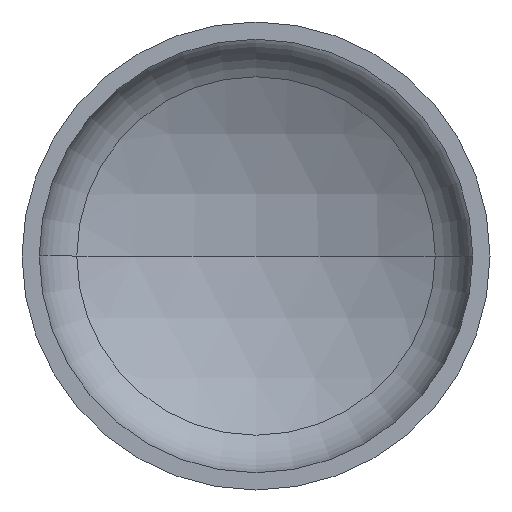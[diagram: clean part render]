
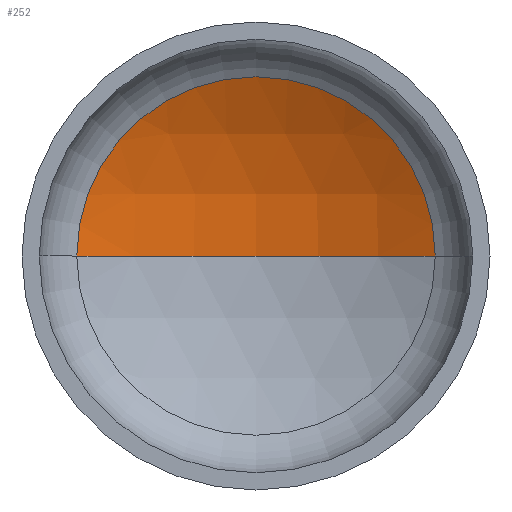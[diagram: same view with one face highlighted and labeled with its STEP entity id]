
A CAD part, front view. The second image highlights one B-rep face of the part: STEP entity #252.
In plain terms, the highlighted spherical face has radius 1040 mm.
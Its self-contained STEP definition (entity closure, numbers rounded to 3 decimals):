
#13 = AXIS2_PLACEMENT_3D ( 'NONE', #42, #39, #63 ) ;
#18 = AXIS2_PLACEMENT_3D ( 'NONE', #316, #138, #345 ) ;
#19 = AXIS2_PLACEMENT_3D ( 'NONE', #180, #182, #162 ) ;
#20 = AXIS2_PLACEMENT_3D ( 'NONE', #286, #203, #198 ) ;
#39 = DIRECTION ( 'NONE',  ( 0., 0., -1. ) ) ;
#42 = CARTESIAN_POINT ( 'NONE',  ( 0., -587.561, 0. ) ) ;
#47 = EDGE_LOOP ( 'NONE', ( #243, #228, #145 ) ) ;
#56 = EDGE_CURVE ( 'NONE', #108, #186, #60, .T. ) ;
#57 = EDGE_CURVE ( 'NONE', #82, #108, #371, .T. ) ;
#58 = EDGE_CURVE ( 'NONE', #82, #186, #247, .T. ) ;
#60 = CIRCLE ( 'NONE', #20, 497.714 ) ;
#63 = DIRECTION ( 'NONE',  ( -1., 0., 0. ) ) ;
#82 = VERTEX_POINT ( 'NONE', #340 ) ;
#108 = VERTEX_POINT ( 'NONE', #271 ) ;
#138 = DIRECTION ( 'NONE',  ( 0., 0., 1. ) ) ;
#145 = ORIENTED_EDGE ( 'NONE', *, *, #56, .T. ) ;
#162 = DIRECTION ( 'NONE',  ( -1., 0., 0. ) ) ;
#180 = CARTESIAN_POINT ( 'NONE',  ( 0., -587.561, 0. ) ) ;
#182 = DIRECTION ( 'NONE',  ( 0., 0., -1. ) ) ;
#186 = VERTEX_POINT ( 'NONE', #278 ) ;
#198 = DIRECTION ( 'NONE',  ( 1., 0., 0. ) ) ;
#203 = DIRECTION ( 'NONE',  ( 0., -1., 0. ) ) ;
#228 = ORIENTED_EDGE ( 'NONE', *, *, #57, .T. ) ;
#243 = ORIENTED_EDGE ( 'NONE', *, *, #58, .F. ) ;
#247 = CIRCLE ( 'NONE', #18, 1040. ) ;
#252 = ADVANCED_FACE ( 'NONE', ( #408 ), #282, .F. ) ;
#271 = CARTESIAN_POINT ( 'NONE',  ( 497.714, 325.61, 0. ) ) ;
#278 = CARTESIAN_POINT ( 'NONE',  ( -497.714, 325.61, 0. ) ) ;
#282 = SPHERICAL_SURFACE ( 'NONE', #13, 1040. ) ;
#286 = CARTESIAN_POINT ( 'NONE',  ( 0., 325.61, 0. ) ) ;
#316 = CARTESIAN_POINT ( 'NONE',  ( 0., -587.561, 0. ) ) ;
#340 = CARTESIAN_POINT ( 'NONE',  ( 0., 452.439, 0. ) ) ;
#345 = DIRECTION ( 'NONE',  ( 1., 0., 0. ) ) ;
#371 = CIRCLE ( 'NONE', #19, 1040. ) ;
#408 = FACE_OUTER_BOUND ( 'NONE', #47, .T. ) ;
